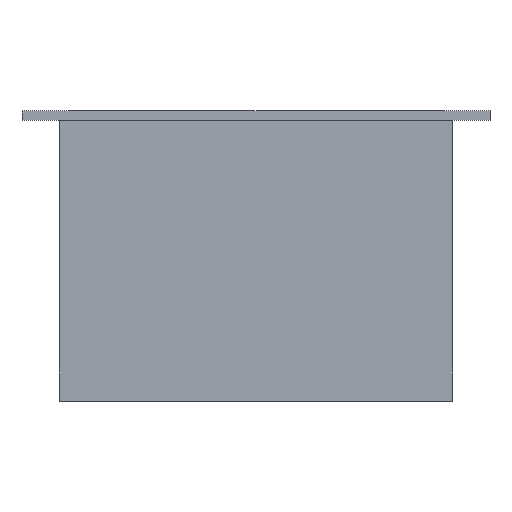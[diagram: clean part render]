
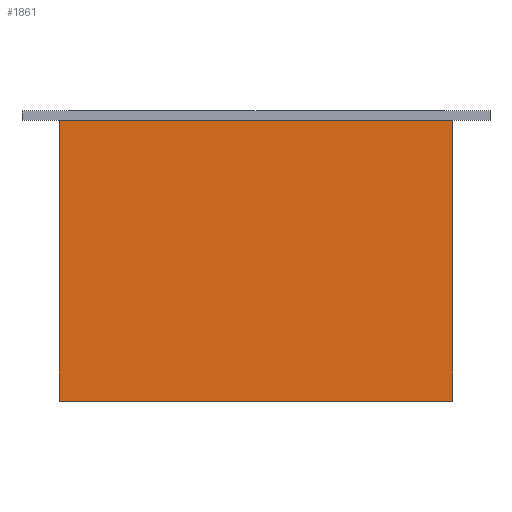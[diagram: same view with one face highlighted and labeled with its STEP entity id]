
A CAD part, front view. The second image highlights one B-rep face of the part: STEP entity #1861.
In plain terms, the highlighted planar face has unit normal (0, -1, 0).
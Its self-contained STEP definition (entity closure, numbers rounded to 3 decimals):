
#199 = ORIENTED_EDGE ( 'NONE', *, *, #1767, .F. ) ;
#261 = VECTOR ( 'NONE', #613, 1000. ) ;
#305 = ORIENTED_EDGE ( 'NONE', *, *, #1739, .F. ) ;
#308 = ORIENTED_EDGE ( 'NONE', *, *, #1724, .T. ) ;
#310 = ORIENTED_EDGE ( 'NONE', *, *, #1573, .T. ) ;
#446 = LINE ( 'NONE', #614, #261 ) ;
#471 = EDGE_LOOP ( 'NONE', ( #305, #199, #308, #310 ) ) ;
#613 = DIRECTION ( 'NONE',  ( 0., 0., -1. ) ) ;
#614 = CARTESIAN_POINT ( 'NONE',  ( -42., 8., 60. ) ) ;
#616 = CARTESIAN_POINT ( 'NONE',  ( -42., 8., 60. ) ) ;
#617 = CARTESIAN_POINT ( 'NONE',  ( 42., 8., 60. ) ) ;
#721 = CARTESIAN_POINT ( 'NONE',  ( 42., 8., 0. ) ) ;
#730 = VERTEX_POINT ( 'NONE', #721 ) ;
#731 = VERTEX_POINT ( 'NONE', #839 ) ;
#829 = VERTEX_POINT ( 'NONE', #617 ) ;
#833 = VERTEX_POINT ( 'NONE', #616 ) ;
#839 = CARTESIAN_POINT ( 'NONE',  ( -42., 8., 0. ) ) ;
#921 = DIRECTION ( 'NONE',  ( -1., 0., 0. ) ) ;
#922 = CARTESIAN_POINT ( 'NONE',  ( -42., 8., 60. ) ) ;
#960 = DIRECTION ( 'NONE',  ( -1., 0., 0. ) ) ;
#961 = CARTESIAN_POINT ( 'NONE',  ( -42., 8., 0. ) ) ;
#1006 = DIRECTION ( 'NONE',  ( 0., 0., -1. ) ) ;
#1007 = CARTESIAN_POINT ( 'NONE',  ( 42., 8., 60. ) ) ;
#1154 = DIRECTION ( 'NONE',  ( 0., -1., 0. ) ) ;
#1155 = DIRECTION ( 'NONE',  ( 1., 0., 0. ) ) ;
#1174 = CARTESIAN_POINT ( 'NONE',  ( -42., 8., 60. ) ) ;
#1177 = PLANE ( 'NONE',  #1742 ) ;
#1372 = LINE ( 'NONE', #922, #1480 ) ;
#1383 = VECTOR ( 'NONE', #960, 1000. ) ;
#1384 = LINE ( 'NONE', #961, #1383 ) ;
#1386 = VECTOR ( 'NONE', #1006, 1000. ) ;
#1418 = LINE ( 'NONE', #1007, #1386 ) ;
#1469 = FACE_OUTER_BOUND ( 'NONE', #471, .T. ) ;
#1480 = VECTOR ( 'NONE', #921, 1000. ) ;
#1573 = EDGE_CURVE ( 'NONE', #833, #731, #446, .T. ) ;
#1724 = EDGE_CURVE ( 'NONE', #829, #833, #1372, .T. ) ;
#1739 = EDGE_CURVE ( 'NONE', #730, #731, #1384, .T. ) ;
#1742 = AXIS2_PLACEMENT_3D ( 'NONE', #1174, #1154, #1155 ) ;
#1767 = EDGE_CURVE ( 'NONE', #829, #730, #1418, .T. ) ;
#1861 = ADVANCED_FACE ( 'NONE', ( #1469 ), #1177, .T. ) ;
